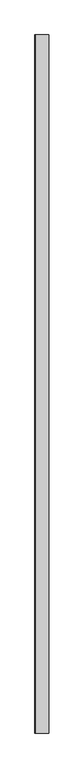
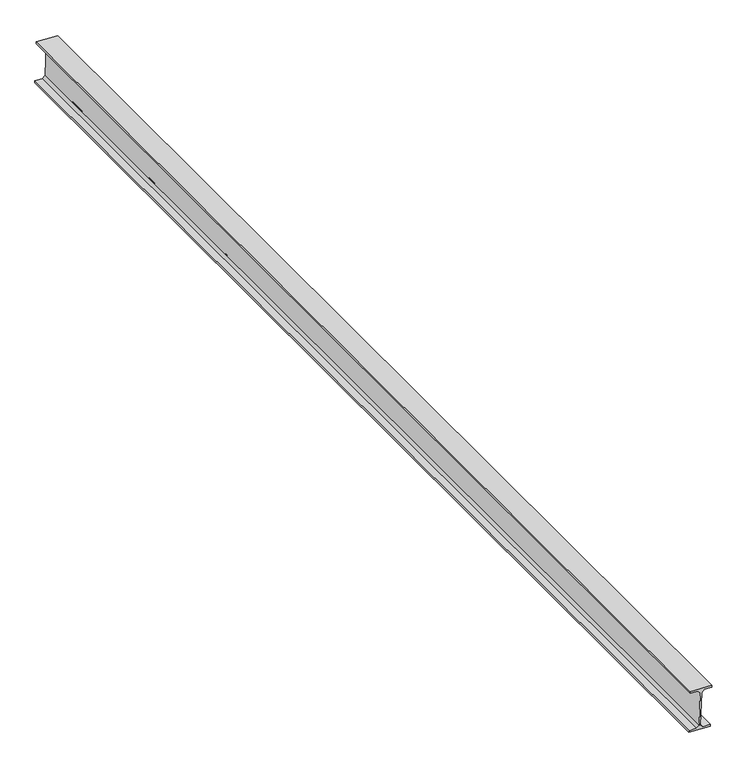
"""IFC4 building model written with IfcOpenShell, lengths in millimetres: beam geometry, Panne 150329 : Panne 150329."""

from ifc_helpers import new_model, si_unit, frame, origin, place, context, project, spatial, polyline, outline, extrude, source, transform, mapped, element, save


def beam_9e802669(model_context):
    return source(origin(), model_context, "Body", "SweptSolid", [
        extrude(outline(polyline([(7697.6679986, 9600.9143256), (7701.1658568, 9500.9755194), (7692.6710583, 9500.6782015), (7691.4398122, 9535.8566613), (7679.0274125, 9547.429575), (7520.1247106, 9541.8679804), (7508.5517968, 9529.4555807), (7509.7830429, 9494.2771209), (7501.2882444, 9493.979803), (7497.7903862, 9593.9186092), (7506.2851847, 9594.2159271), (7507.5164308, 9559.0374674), (7519.9288305, 9547.4645536), (7678.8315324, 9553.0261482), (7690.4044462, 9565.4385479), (7689.1732001, 9600.6170077), (7697.6679986, 9600.9143256)])), frame((0.0, -34330.0, 0.0), z_axis=(0.0, 1.0, 0.0), x_axis=(0.0, 0.0, 1.0)), (0.0, 0.0, 1.0), 5330.0),
    ])


if __name__ == "__main__":
    model = new_model("IFC4")
    model_context = context("Model", 3, world=origin())
    ifc_project = project(units=[si_unit("LENGTHUNIT", "METRE", prefix="MILLI")], contexts=[model_context])
    site = spatial("IfcSite", under=ifc_project)
    building = spatial("IfcBuilding", under=site)
    placement = place(None, origin())
    beam_shape = beam_9e802669(model_context)
    element("IfcBeam", 1, ObjectType="Panne 150329 : Panne 150329", at=placement, inside=building, context=model_context, shape_type="MappedRepresentation", body=[
        mapped(beam_shape, transform((0.0, 0.0, 0.0), x_axis=(1.0, 0.0, 0.0), y_axis=(0.0, 1.0, 0.0), z_axis=(0.0, 0.0, 1.0))),
    ])
    save(model, "model.ifc")
